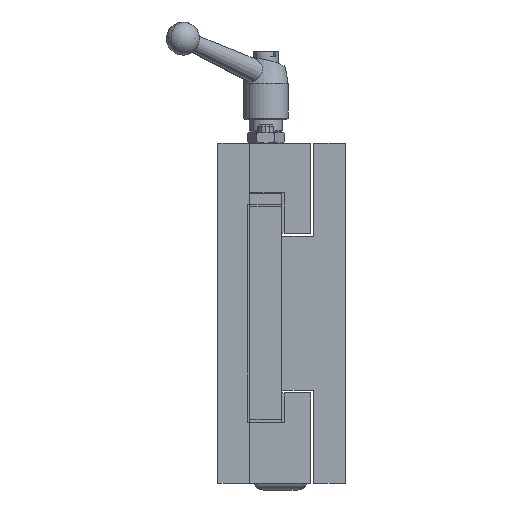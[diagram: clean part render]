
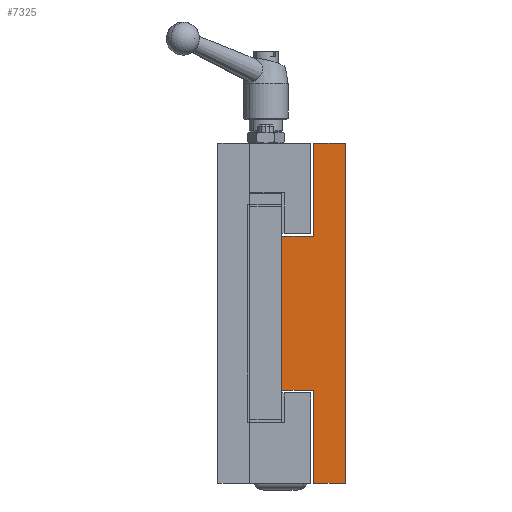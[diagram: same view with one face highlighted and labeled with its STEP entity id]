
A CAD part, left-side view. The second image highlights one B-rep face of the part: STEP entity #7325.
In plain terms, the highlighted planar face has unit normal (-1, 0, 0).
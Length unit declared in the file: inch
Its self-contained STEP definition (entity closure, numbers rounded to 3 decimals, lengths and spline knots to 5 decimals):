
#1900 = LINE ( 'NONE', #1920, #2417 ) ;
#1920 = CARTESIAN_POINT ( 'NONE',  ( 0., 0.75, 2. ) ) ;
#1924 = DIRECTION ( 'NONE',  ( 0., 0., 1. ) ) ;
#1949 = LINE ( 'NONE', #1991, #2409 ) ;
#1960 = LINE ( 'NONE', #2003, #2405 ) ;
#1983 = LINE ( 'NONE', #1987, #2406 ) ;
#1985 = LINE ( 'NONE', #2009, #2403 ) ;
#1987 = CARTESIAN_POINT ( 'NONE',  ( 0., 0.75, -0.90625 ) ) ;
#1989 = DIRECTION ( 'NONE',  ( 0., -1., 0. ) ) ;
#1991 = CARTESIAN_POINT ( 'NONE',  ( 0., 0.375, -2. ) ) ;
#1994 = DIRECTION ( 'NONE',  ( 0., 0., -1. ) ) ;
#1996 = LINE ( 'NONE', #2000, #2404 ) ;
#1998 = LINE ( 'NONE', #2014, #2402 ) ;
#2000 = CARTESIAN_POINT ( 'NONE',  ( 0., 0.75, -2. ) ) ;
#2001 = DIRECTION ( 'NONE',  ( 0., 1., 0. ) ) ;
#2003 = CARTESIAN_POINT ( 'NONE',  ( 0., 0., 2. ) ) ;
#2007 = DIRECTION ( 'NONE',  ( 0., 0., -1. ) ) ;
#2009 = CARTESIAN_POINT ( 'NONE',  ( 0., 0.75, 2. ) ) ;
#2012 = DIRECTION ( 'NONE',  ( 0., -1., 0. ) ) ;
#2014 = CARTESIAN_POINT ( 'NONE',  ( 0., 0.375, 2. ) ) ;
#2018 = DIRECTION ( 'NONE',  ( 0., 0., -1. ) ) ;
#2020 = LINE ( 'NONE', #2022, #2400 ) ;
#2022 = CARTESIAN_POINT ( 'NONE',  ( 0., 0.75, 0.90625 ) ) ;
#2024 = DIRECTION ( 'NONE',  ( 0., 1., 0. ) ) ;
#2400 = VECTOR ( 'NONE', #2024, 39.37008 ) ;
#2402 = VECTOR ( 'NONE', #2018, 39.37008 ) ;
#2403 = VECTOR ( 'NONE', #2012, 39.37008 ) ;
#2404 = VECTOR ( 'NONE', #2001, 39.37008 ) ;
#2405 = VECTOR ( 'NONE', #2007, 39.37008 ) ;
#2406 = VECTOR ( 'NONE', #1989, 39.37008 ) ;
#2409 = VECTOR ( 'NONE', #1994, 39.37008 ) ;
#2417 = VECTOR ( 'NONE', #1924, 39.37008 ) ;
#3179 = AXIS2_PLACEMENT_3D ( 'NONE', #6203, #6209, #6210 ) ;
#3395 = ORIENTED_EDGE ( 'NONE', *, *, #7698, .T. ) ;
#3396 = ORIENTED_EDGE ( 'NONE', *, *, #7699, .T. ) ;
#3397 = ORIENTED_EDGE ( 'NONE', *, *, #7700, .F. ) ;
#3398 = ORIENTED_EDGE ( 'NONE', *, *, #7701, .F. ) ;
#3399 = ORIENTED_EDGE ( 'NONE', *, *, #7702, .F. ) ;
#3400 = ORIENTED_EDGE ( 'NONE', *, *, #7703, .T. ) ;
#3401 = ORIENTED_EDGE ( 'NONE', *, *, #7704, .T. ) ;
#3402 = ORIENTED_EDGE ( 'NONE', *, *, #7688, .F. ) ;
#5449 = VERTEX_POINT ( 'NONE', #5968 ) ;
#5450 = VERTEX_POINT ( 'NONE', #5966 ) ;
#5453 = VERTEX_POINT ( 'NONE', #5970 ) ;
#5456 = VERTEX_POINT ( 'NONE', #5972 ) ;
#5458 = VERTEX_POINT ( 'NONE', #5974 ) ;
#5463 = VERTEX_POINT ( 'NONE', #5979 ) ;
#5576 = VERTEX_POINT ( 'NONE', #6092 ) ;
#5966 = CARTESIAN_POINT ( 'NONE',  ( 0., 0.375, 2. ) ) ;
#5968 = CARTESIAN_POINT ( 'NONE',  ( 0., 0.375, -2. ) ) ;
#5970 = CARTESIAN_POINT ( 'NONE',  ( 0., 0.375, -0.90625 ) ) ;
#5972 = CARTESIAN_POINT ( 'NONE',  ( 0., 0., 2. ) ) ;
#5974 = CARTESIAN_POINT ( 'NONE',  ( 0., 0.75, 0.90625 ) ) ;
#5979 = CARTESIAN_POINT ( 'NONE',  ( 0., 0.75, -0.90625 ) ) ;
#6092 = CARTESIAN_POINT ( 'NONE',  ( 0., 0., -2. ) ) ;
#6192 = CARTESIAN_POINT ( 'NONE',  ( 0., 0.375, 0.90625 ) ) ;
#6201 = PLANE ( 'NONE',  #3179 ) ;
#6203 = CARTESIAN_POINT ( 'NONE',  ( 0., 0., 2. ) ) ;
#6207 = FACE_OUTER_BOUND ( 'NONE', #7176, .T. ) ;
#6209 = DIRECTION ( 'NONE',  ( 1., 0., 0. ) ) ;
#6210 = DIRECTION ( 'NONE',  ( 0., 0., -1. ) ) ;
#6781 = VERTEX_POINT ( 'NONE', #6192 ) ;
#7176 = EDGE_LOOP ( 'NONE', ( #3395, #3396, #3397, #3398, #3399, #3400, #3401, #3402 ) ) ;
#7325 = ADVANCED_FACE ( 'NONE', ( #6207 ), #6201, .F. ) ;
#7688 = EDGE_CURVE ( 'NONE', #5463, #5458, #1900, .T. ) ;
#7698 = EDGE_CURVE ( 'NONE', #5463, #5453, #1983, .T. ) ;
#7699 = EDGE_CURVE ( 'NONE', #5453, #5449, #1949, .T. ) ;
#7700 = EDGE_CURVE ( 'NONE', #5576, #5449, #1996, .T. ) ;
#7701 = EDGE_CURVE ( 'NONE', #5456, #5576, #1960, .T. ) ;
#7702 = EDGE_CURVE ( 'NONE', #5450, #5456, #1985, .T. ) ;
#7703 = EDGE_CURVE ( 'NONE', #5450, #6781, #1998, .T. ) ;
#7704 = EDGE_CURVE ( 'NONE', #6781, #5458, #2020, .T. ) ;
